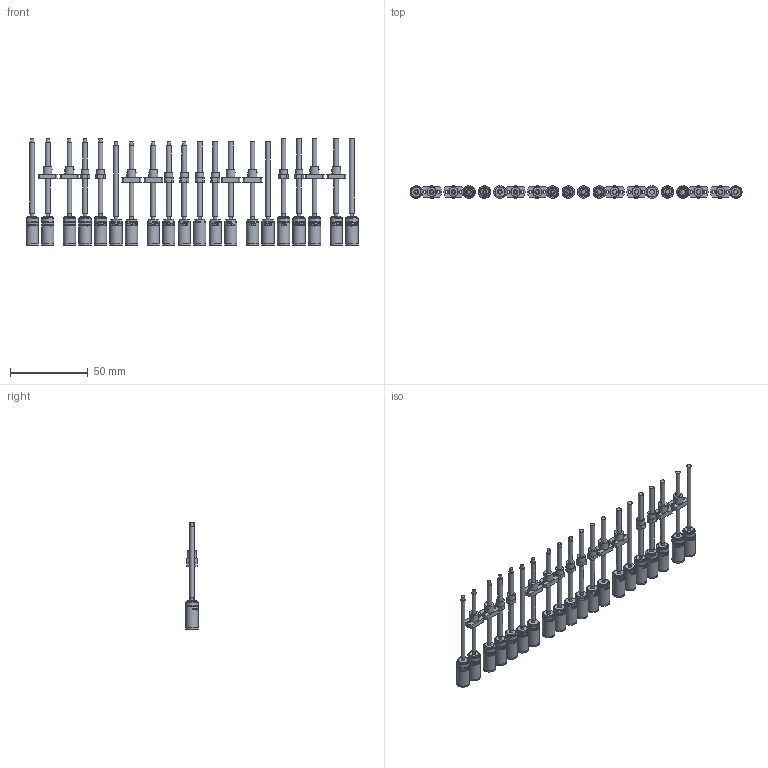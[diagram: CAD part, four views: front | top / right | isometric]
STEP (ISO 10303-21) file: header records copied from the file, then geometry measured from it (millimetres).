
FILE_DESCRIPTION(/* description */ (''),/* implementation_level */ '2;1');
FILE_NAME(/* name */ '08L-3stage_SL_standard_KWNx_KWS1_KF2.stp',/* time_stamp */ '2024-02-23T14:00:28+01:00',/* author */ ('DR. FRITZ FAULHABER GmbH & Co. KG'),/* organization */ ('DR. FRITZ FAULHABER GmbH & Co. KG'),/* preprocessor_version */ 'ST-DEVELOPER v19.3',/* originating_system */ 'SIEMENS PLM Software NX2212.4000',/* authorisation */ '');
FILE_SCHEMA (('AUTOMOTIVE_DESIGN { 1 0 10303 214 3 1 1 1 }'));
Length unit declared in the file: millimetre
Products named in the file (1): C_objects
Bounding box: 214 x 8 x 68.8 mm (x, y, z)
Volume: 25817.9 mm3; surface area: 24908.2 mm2
Topology: 20 solids, 20 shells, 2387 faces, 5838 edges, 3881 vertices
Faces by surface type: plane 1296, bspline 570, cylinder 481, cone 40
Full cylindrical faces by diameter (mm): 1.8 x16, 2 x10, 2.2 x20, 2.55 x20, 2.95 x20, 3 x36, 4.959 x30, 5 x8, 6 x38, 6.5 x10, 7 x10, 7.8 x10, 7.99 x10, 8 x60
Entity records: 108554 total; most frequent: CARTESIAN_POINT 47997, ORIENTED_EDGE 10856, DIRECTION 7542, EDGE_CURVE 5428, VERTEX_POINT 3812, EDGE_LOOP 3150, AXIS2_PLACEMENT_3D 3130, B_SPLINE_CURVE_WITH_KNOTS 2835
